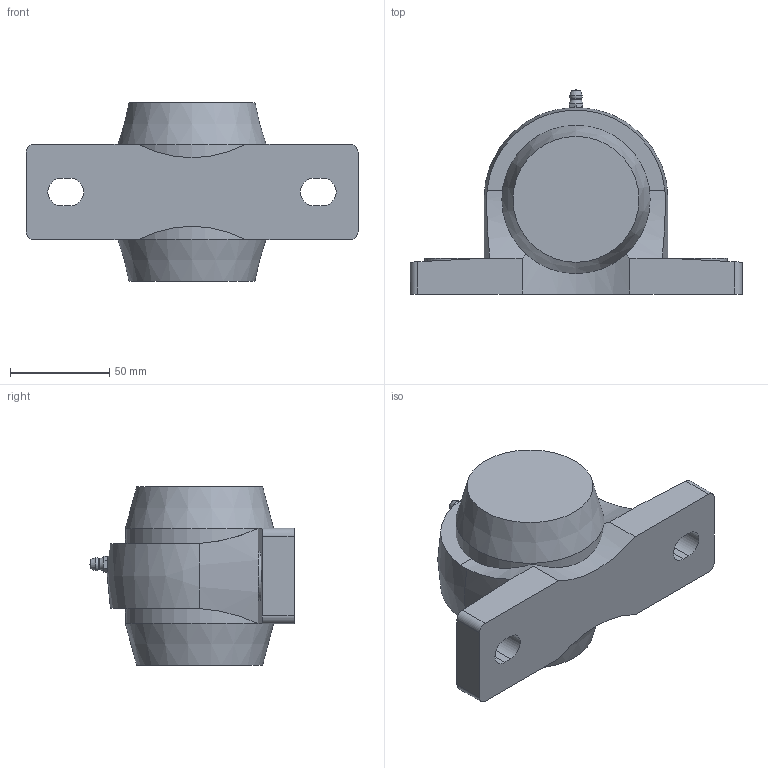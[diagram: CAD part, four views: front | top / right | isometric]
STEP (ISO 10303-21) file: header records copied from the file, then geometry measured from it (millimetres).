
FILE_DESCRIPTION(/* description */ (''),/* implementation_level */ '2;1');
FILE_NAME(/* name */ 'C:\Users\UGijyutu_200702\Desktop\77.プラスチックハウジング\MBPPL200V\MBPPL200VE\BMPPL207VE.stp',/* time_stamp */ '2023-02-10T16:56:59+09:00',/* author */ ('UGijyutu_200702'),/* organization */ (''),/* preprocessor_version */ 'ST-DEVELOPER v18',/* originating_system */ 'Autodesk Inventor 2020',/* authorisation */ '');
FILE_SCHEMA (('AUTOMOTIVE_DESIGN { 1 0 10303 214 3 1 1 }'));
Length unit declared in the file: millimetre
Products named in the file (6): BMPPL207VE; PPL207; MB7 V; 1/4-28UNF-2A; 207E; 207C
Assembly tree (5 placements, depth 2):
  BMPPL207VE
    PPL207
    MB7 V
    1/4-28UNF-2A
    207E
    207C
Bounding box: 167 x 102.8 x 89.7 mm (x, y, z)
Volume: 308738.5 mm3; surface area: 96915.1 mm2
Topology: 5 solids, 5 shells, 126 faces, 317 edges, 214 vertices
Faces by surface type: plane 62, cylinder 38, cone 19, sphere 4, torus 2, bspline 1
Full cylindrical faces by diameter (mm): 3.2 x1, 5.359 x1, 6 x2, 6.35 x1, 35 x2, 40 x1, 48 x1, 51 x1, 70.6 x2, 74 x2, 74.6 x2
Entity records: 4464 total; most frequent: CARTESIAN_POINT 1095, DIRECTION 655, ORIENTED_EDGE 632, EDGE_CURVE 316, AXIS2_PLACEMENT_3D 261, VERTEX_POINT 214, EDGE_LOOP 152, LINE 133
